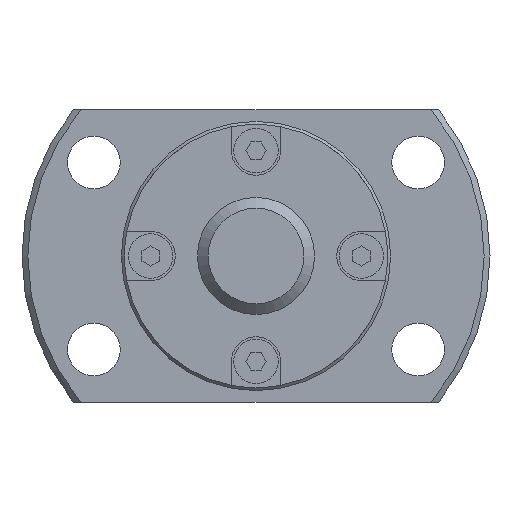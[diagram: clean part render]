
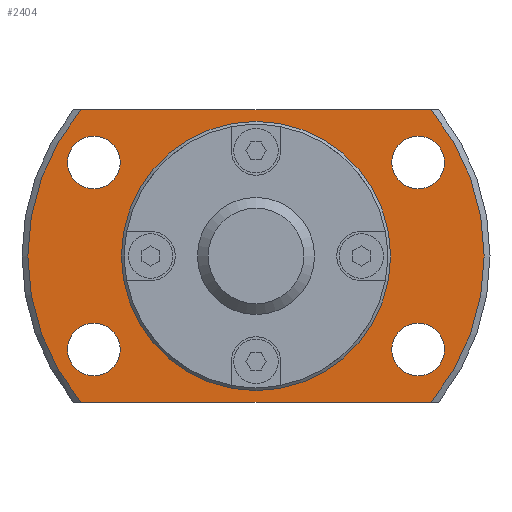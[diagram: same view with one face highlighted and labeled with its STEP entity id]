
A CAD part, left-side view. The second image highlights one B-rep face of the part: STEP entity #2404.
In plain terms, the highlighted planar face has unit normal (-1, 0, 0).
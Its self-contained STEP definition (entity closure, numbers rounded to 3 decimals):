
#134=LINE('',#3757,#360);
#135=LINE('',#3761,#361);
#360=VECTOR('',#3014,1000.);
#361=VECTOR('',#3017,1000.);
#672=ORIENTED_EDGE('',*,*,#1289,.F.);
#673=ORIENTED_EDGE('',*,*,#1290,.F.);
#674=ORIENTED_EDGE('',*,*,#1291,.F.);
#675=ORIENTED_EDGE('',*,*,#1292,.F.);
#676=ORIENTED_EDGE('',*,*,#1275,.F.);
#677=ORIENTED_EDGE('',*,*,#1293,.T.);
#678=ORIENTED_EDGE('',*,*,#1294,.F.);
#679=ORIENTED_EDGE('',*,*,#1295,.T.);
#680=ORIENTED_EDGE('',*,*,#1288,.T.);
#1275=EDGE_CURVE('',#1592,#1593,#1784,.T.);
#1288=EDGE_CURVE('',#1604,#1604,#1792,.T.);
#1289=EDGE_CURVE('',#1605,#1605,#1793,.F.);
#1290=EDGE_CURVE('',#1606,#1606,#1794,.F.);
#1291=EDGE_CURVE('',#1607,#1607,#1795,.F.);
#1292=EDGE_CURVE('',#1608,#1608,#1796,.F.);
#1293=EDGE_CURVE('',#1592,#1609,#134,.T.);
#1294=EDGE_CURVE('',#1610,#1609,#1797,.T.);
#1295=EDGE_CURVE('',#1610,#1593,#135,.T.);
#1592=VERTEX_POINT('',#3705);
#1593=VERTEX_POINT('',#3707);
#1604=VERTEX_POINT('',#3747);
#1605=VERTEX_POINT('',#3750);
#1606=VERTEX_POINT('',#3752);
#1607=VERTEX_POINT('',#3754);
#1608=VERTEX_POINT('',#3756);
#1609=VERTEX_POINT('',#3758);
#1610=VERTEX_POINT('',#3760);
#1784=CIRCLE('',#2610,19.5);
#1792=CIRCLE('',#2625,11.25);
#1793=CIRCLE('',#2627,2.25);
#1794=CIRCLE('',#2628,2.25);
#1795=CIRCLE('',#2629,2.25);
#1796=CIRCLE('',#2630,2.25);
#1797=CIRCLE('',#2631,19.5);
#1896=EDGE_LOOP('',(#672));
#1897=EDGE_LOOP('',(#673));
#1898=EDGE_LOOP('',(#674));
#1899=EDGE_LOOP('',(#675));
#1900=EDGE_LOOP('',(#676,#677,#678,#679));
#1901=EDGE_LOOP('',(#680));
#2108=FACE_BOUND('',#1896,.T.);
#2109=FACE_BOUND('',#1897,.T.);
#2110=FACE_BOUND('',#1898,.T.);
#2111=FACE_BOUND('',#1899,.T.);
#2112=FACE_BOUND('',#1900,.T.);
#2113=FACE_BOUND('',#1901,.T.);
#2281=PLANE('',#2626);
#2404=ADVANCED_FACE('',(#2108,#2109,#2110,#2111,#2112,#2113),#2281,.F.);
#2610=AXIS2_PLACEMENT_3D('',#3706,#2970,#2971);
#2625=AXIS2_PLACEMENT_3D('',#3746,#3002,#3003);
#2626=AXIS2_PLACEMENT_3D('',#3748,#3004,#3005);
#2627=AXIS2_PLACEMENT_3D('',#3749,#3006,#3007);
#2628=AXIS2_PLACEMENT_3D('',#3751,#3008,#3009);
#2629=AXIS2_PLACEMENT_3D('',#3753,#3010,#3011);
#2630=AXIS2_PLACEMENT_3D('',#3755,#3012,#3013);
#2631=AXIS2_PLACEMENT_3D('',#3759,#3015,#3016);
#2970=DIRECTION('',(1.,0.,0.));
#2971=DIRECTION('',(0.,0.,-1.));
#3002=DIRECTION('',(1.,0.,0.));
#3003=DIRECTION('',(0.,0.,-1.));
#3004=DIRECTION('',(1.,0.,0.));
#3005=DIRECTION('',(0.,0.,-1.));
#3006=DIRECTION('',(1.,0.,0.));
#3007=DIRECTION('',(0.,0.,-1.));
#3008=DIRECTION('',(1.,0.,0.));
#3009=DIRECTION('',(0.,0.,-1.));
#3010=DIRECTION('',(1.,0.,0.));
#3011=DIRECTION('',(0.,0.,-1.));
#3012=DIRECTION('',(1.,0.,0.));
#3013=DIRECTION('',(0.,0.,-1.));
#3014=DIRECTION('',(0.,-1.,0.));
#3015=DIRECTION('',(1.,0.,0.));
#3016=DIRECTION('',(0.,0.,-1.));
#3017=DIRECTION('',(0.,1.,0.));
#3705=CARTESIAN_POINT('',(13.,14.967,-12.5));
#3706=CARTESIAN_POINT('',(13.,0.,0.));
#3707=CARTESIAN_POINT('',(13.,14.967,12.5));
#3746=CARTESIAN_POINT('',(13.,0.,0.));
#3747=CARTESIAN_POINT('',(13.,0.,-11.25));
#3748=CARTESIAN_POINT('',(13.,11.25,0.));
#3749=CARTESIAN_POINT('',(13.,-13.856,-8.));
#3750=CARTESIAN_POINT('',(13.,-13.856,-10.25));
#3751=CARTESIAN_POINT('',(13.,-13.856,8.));
#3752=CARTESIAN_POINT('',(13.,-13.856,5.75));
#3753=CARTESIAN_POINT('',(13.,13.856,-8.));
#3754=CARTESIAN_POINT('',(13.,13.856,-10.25));
#3755=CARTESIAN_POINT('',(13.,13.856,8.));
#3756=CARTESIAN_POINT('',(13.,13.856,5.75));
#3757=CARTESIAN_POINT('',(13.,11.25,-12.5));
#3758=CARTESIAN_POINT('',(13.,-14.967,-12.5));
#3759=CARTESIAN_POINT('',(13.,0.,0.));
#3760=CARTESIAN_POINT('',(13.,-14.967,12.5));
#3761=CARTESIAN_POINT('',(13.,11.25,12.5));
